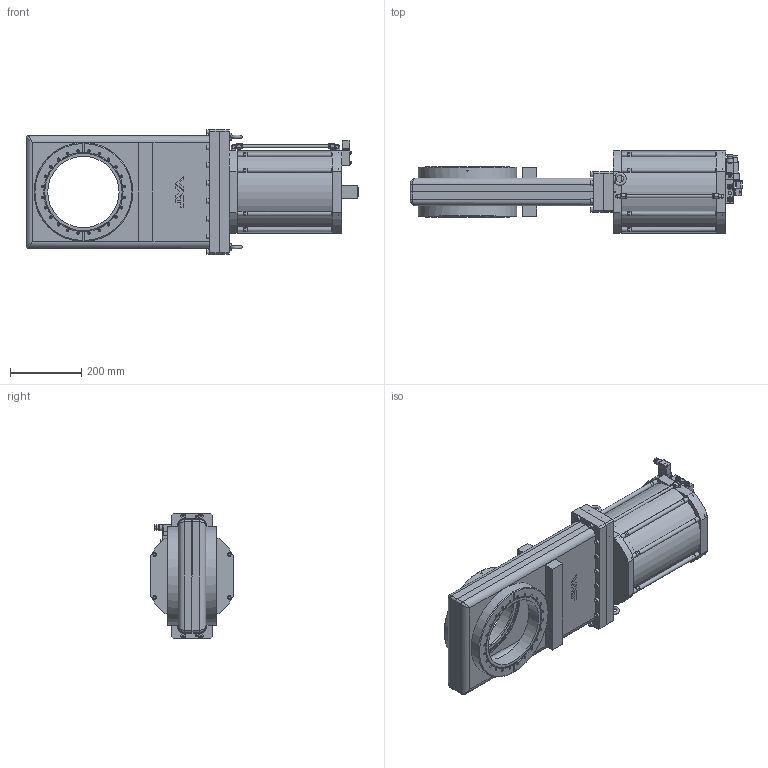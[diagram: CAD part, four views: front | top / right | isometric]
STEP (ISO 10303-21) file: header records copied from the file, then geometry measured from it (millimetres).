
FILE_DESCRIPTION(/* description */ (''),/* implementation_level */ '2;1');
FILE_NAME(/* name */ '1247071132_203.stp',/* time_stamp */ '2019-03-01T07:46:10+01:00',/* author */ (''),/* organization */ (''),/* preprocessor_version */ 'ST-DEVELOPER v16',/* originating_system */ 'SIEMENS PLM Software NX 11.0',/* authorisation */ '');
FILE_SCHEMA (('AP203_CONFIGURATION_CONTROLLED_3D_DESIGN_OF_MECHANICAL_PARTS_AND_ASSEMBLIES_MIM_LF { 1 0 10303 403 2 1 2}'));
Products named in the file (31): 467863; 467864; 224842.1; 85356-01; 99051-01_1; 99053-01_1; 99052-01_4.3; 99052-01_5.4; 72238-01; n-6162-404; n-6016-503; n-6203-015; 72236-01; 235291.2; 85362-01.3; 85368-01.2; 85360-01.2; N-7612-036.1; N-6005-501.1; 85365-01.1; n-8504-002; 69672-01; n-6024-531; N-7501-502_1; N-7501-502_2; N-6024-562; 366217; 90495-01.5; N-6033-403; N-8501-300_MODELNX-ARRAGMNTArrangement 1; 451852
Assembly tree (70 placements, depth 3):
  451852
    N-6033-403  x2
    90495-01.5
    366217  x2
    N-6024-562  x2
    N-7501-502_2
    N-7501-502_1
    n-6024-531  x4
    69672-01
    n-8504-002
    85365-01.1  x8
    N-6005-501.1  x8
    N-7612-036.1  x2
    85360-01.2
    85368-01.2
    85362-01.3
    235291.2
    72236-01
    n-6203-015
    n-6016-503  x2
    n-6162-404  x2
    72238-01
    99052-01_5.4
    99052-01_4.3
    99053-01_1
    99051-01_1  x2
    85356-01  x2
    224842.1  x16
    N-8501-300_MODELNX-ARRAGMNTArrangement 1
      467864
      467863
Bounding box: 931 x 230 x 352 mm (x, y, z)
Volume: 9997106.4 mm3; surface area: 2105700.6 mm2
Topology: 121 solids, 121 shells, 2422 faces, 5566 edges, 3595 vertices
Faces by surface type: plane 1385, cylinder 631, cone 244, extrusion 69, torus 41, bspline 34, sphere 18
Full cylindrical faces by diameter (mm): 1.4 x2, 1.66 x7, 1.95 x4, 2.25 x4, 2.7 x5, 3 x5, 3.26 x2, 3.3 x4, 3.4 x4, 4 x5, 4.2 x2, 4.3 x1, 4.4 x4, 4.8 x2, 4.9 x1, 5 x2, 5.006 x2, 5.25 x5, 5.5 x3, 5.6 x2, 6 x15, 6.466 x16, 6.5 x2, 6.647 x4, 6.66 x24, 6.7 x24, 6.8 x58, 7.7 x8, 7.78 x1, 8 x81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
Entity records: 55617 total; most frequent: CARTESIAN_POINT 15283, DIRECTION 6849, ORIENTED_EDGE 6432, EDGE_CURVE 3216, AXIS2_PLACEMENT_3D 2638, VERTEX_POINT 2408, EDGE_LOOP 2347, ADVANCED_FACE 1577
